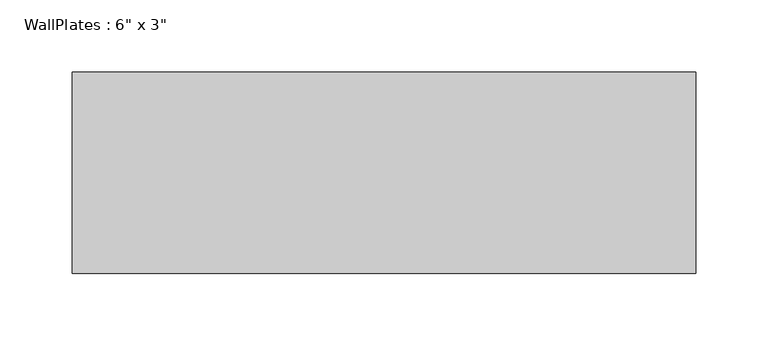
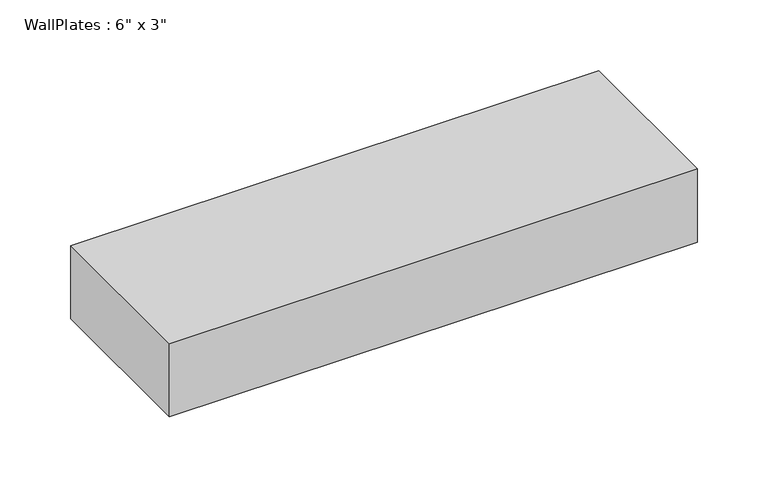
"""IFC4 building model written with IfcOpenShell, lengths in millimetres: beam geometry."""

from ifc_helpers import new_model, si_unit, frame, origin, place, context, project, spatial, polyline, outline, extrude, source, transform, mapped, element, save


def beam_b0a01ff6(model_context):
    return source(origin(), model_context, "Body", "SweptSolid", [
        extrude(outline(polyline([(-215.9, -69.85), (-215.9, 69.85), (215.9, 69.85), (215.9, -69.85), (-215.9, -69.85)])), frame((0.0, 0.0, -31.75), z_axis=(0.0, 0.0, 1.0), x_axis=(1.0, 0.0, 0.0)), (0.0, 0.0, 1.0), 63.5),
    ])


if __name__ == "__main__":
    model = new_model("IFC4")
    model_context = context("Model", 3, world=origin())
    ifc_project = project(units=[si_unit("LENGTHUNIT", "METRE", prefix="MILLI")], contexts=[model_context])
    site = spatial("IfcSite", under=ifc_project)
    building = spatial("IfcBuilding", under=site)
    placement = place(None, origin())
    beam_shape = beam_b0a01ff6(model_context)
    element("IfcBeam", 1, ObjectType="WallPlates : 6\" x 3\"", at=placement, inside=building, context=model_context, shape_type="MappedRepresentation", body=[
        mapped(beam_shape, transform((0.0, 0.0, 0.0), x_axis=(1.0, 0.0, 0.0), y_axis=(0.0, 1.0, 0.0), z_axis=(0.0, 0.0, 1.0))),
    ])
    save(model, "model.ifc")
